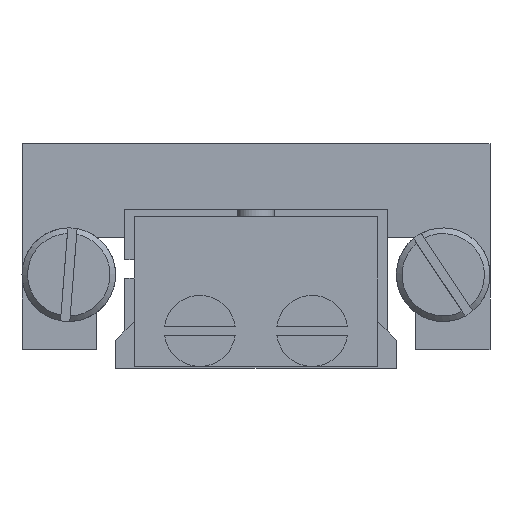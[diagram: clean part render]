
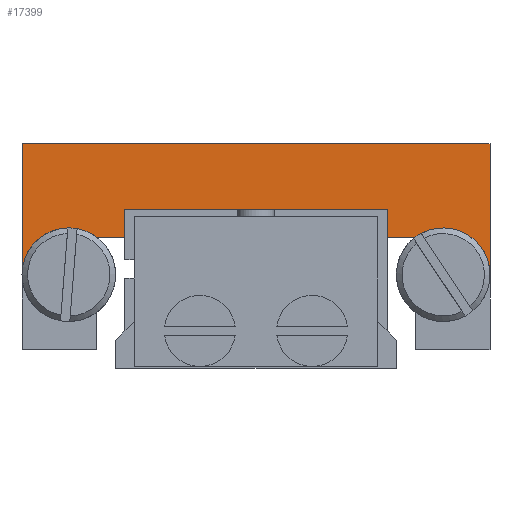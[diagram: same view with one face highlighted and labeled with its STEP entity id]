
A CAD part, front view. The second image highlights one B-rep face of the part: STEP entity #17399.
In plain terms, the highlighted planar face has unit normal (0, -1, 0).
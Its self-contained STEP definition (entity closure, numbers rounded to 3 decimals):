
#2242=FACE_OUTER_BOUND('',#3315,.T.);
#3315=EDGE_LOOP('',(#14329,#14330,#14331,#14332,#14333,#14334,#14335,#14336,
#14337,#14338));
#4549=LINE('',#51803,#5841);
#4565=LINE('',#52038,#5857);
#4566=LINE('',#52039,#5858);
#4567=LINE('',#52041,#5859);
#4568=LINE('',#52043,#5860);
#4569=LINE('',#52046,#5861);
#4570=LINE('',#52048,#5862);
#4571=LINE('',#52049,#5863);
#5841=VECTOR('',#20944,14.);
#5857=VECTOR('',#21004,1.5);
#5858=VECTOR('',#21005,1.5);
#5859=VECTOR('',#21006,1.5);
#5860=VECTOR('',#21007,1.5);
#5861=VECTOR('',#21010,7.);
#5862=VECTOR('',#21011,25.);
#5863=VECTOR('',#21012,7.);
#6666=CIRCLE('',#18495,2.5);
#6667=CIRCLE('',#18496,2.5);
#7871=VERTEX_POINT('',#51801);
#7872=VERTEX_POINT('',#51802);
#7895=VERTEX_POINT('',#52025);
#7899=VERTEX_POINT('',#52034);
#7900=VERTEX_POINT('',#52035);
#7901=VERTEX_POINT('',#52037);
#7902=VERTEX_POINT('',#52040);
#7903=VERTEX_POINT('',#52042);
#7904=VERTEX_POINT('',#52045);
#7905=VERTEX_POINT('',#52047);
#10142=EDGE_CURVE('',#7871,#7872,#4549,.T.);
#10174=EDGE_CURVE('',#7899,#7900,#6666,.T.);
#10175=EDGE_CURVE('',#7900,#7901,#4565,.T.);
#10176=EDGE_CURVE('',#7901,#7871,#4566,.T.);
#10177=EDGE_CURVE('',#7872,#7902,#4567,.T.);
#10178=EDGE_CURVE('',#7902,#7903,#4568,.T.);
#10179=EDGE_CURVE('',#7903,#7895,#6667,.T.);
#10180=EDGE_CURVE('',#7895,#7904,#4569,.T.);
#10181=EDGE_CURVE('',#7904,#7905,#4570,.T.);
#10182=EDGE_CURVE('',#7905,#7899,#4571,.T.);
#14329=ORIENTED_EDGE('',*,*,#10174,.T.);
#14330=ORIENTED_EDGE('',*,*,#10175,.T.);
#14331=ORIENTED_EDGE('',*,*,#10176,.T.);
#14332=ORIENTED_EDGE('',*,*,#10142,.T.);
#14333=ORIENTED_EDGE('',*,*,#10177,.T.);
#14334=ORIENTED_EDGE('',*,*,#10178,.T.);
#14335=ORIENTED_EDGE('',*,*,#10179,.T.);
#14336=ORIENTED_EDGE('',*,*,#10180,.T.);
#14337=ORIENTED_EDGE('',*,*,#10181,.T.);
#14338=ORIENTED_EDGE('',*,*,#10182,.T.);
#16608=PLANE('',#18494);
#17399=ADVANCED_FACE('',(#2242),#16608,.F.);
#18494=AXIS2_PLACEMENT_3D('',#52033,#21000,#21001);
#18495=AXIS2_PLACEMENT_3D('',#52036,#21002,#21003);
#18496=AXIS2_PLACEMENT_3D('',#52044,#21008,#21009);
#20944=DIRECTION('',(1.,0.,0.));
#21000=DIRECTION('center_axis',(0.,1.,0.));
#21001=DIRECTION('ref_axis',(1.,0.,0.));
#21002=DIRECTION('center_axis',(0.,1.,0.));
#21003=DIRECTION('ref_axis',(-0.997,0.,0.079));
#21004=DIRECTION('',(1.,0.,0.));
#21005=DIRECTION('',(0.,0.,1.));
#21006=DIRECTION('',(0.,0.,-1.));
#21007=DIRECTION('',(1.,0.,0.));
#21008=DIRECTION('center_axis',(0.,1.,0.));
#21009=DIRECTION('ref_axis',(-0.832,0.,
-0.555));
#21010=DIRECTION('',(0.,0.,1.));
#21011=DIRECTION('',(-1.,0.,0.));
#21012=DIRECTION('',(0.,0.,-1.));
#51801=CARTESIAN_POINT('',(5.729,-24.,18.811));
#51802=CARTESIAN_POINT('',(19.729,-24.,18.811));
#51803=CARTESIAN_POINT('',(5.729,-24.,18.811));
#52025=CARTESIAN_POINT('',(25.229,-24.,15.311));
#52033=CARTESIAN_POINT('Origin',(12.729,-24.,17.923));
#52034=CARTESIAN_POINT('',(0.229,-24.,15.311));
#52035=CARTESIAN_POINT('',(4.229,-24.,17.311));
#52036=CARTESIAN_POINT('Origin',(2.729,-24.,15.311));
#52037=CARTESIAN_POINT('',(5.729,-24.,17.311));
#52038=CARTESIAN_POINT('',(4.229,-24.,17.311));
#52039=CARTESIAN_POINT('',(5.729,-24.,17.311));
#52040=CARTESIAN_POINT('',(19.729,-24.,17.311));
#52041=CARTESIAN_POINT('',(19.729,-24.,18.811));
#52042=CARTESIAN_POINT('',(21.229,-24.,17.311));
#52043=CARTESIAN_POINT('',(19.729,-24.,17.311));
#52044=CARTESIAN_POINT('Origin',(22.729,-24.,15.311));
#52045=CARTESIAN_POINT('',(25.229,-24.,22.311));
#52046=CARTESIAN_POINT('',(25.229,-24.,11.311));
#52047=CARTESIAN_POINT('',(0.229,-24.,22.311));
#52048=CARTESIAN_POINT('',(25.229,-24.,22.311));
#52049=CARTESIAN_POINT('',(0.229,-24.,22.311));
